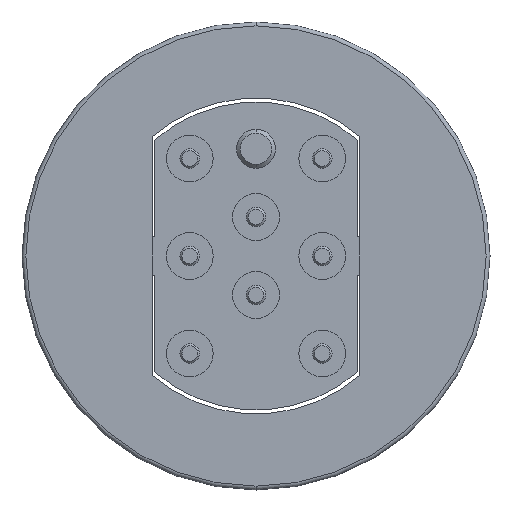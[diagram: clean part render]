
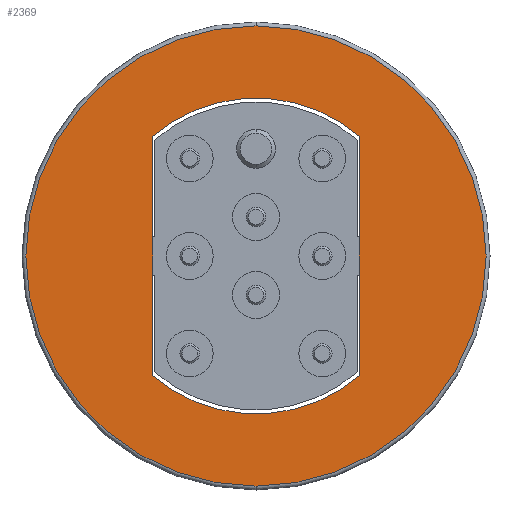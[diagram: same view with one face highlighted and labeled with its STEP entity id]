
A CAD part, front view. The second image highlights one B-rep face of the part: STEP entity #2369.
In plain terms, the highlighted planar face has unit normal (0, -1, 0) as drawn and (0, 1, 0) by its records, which use the part's own axes.
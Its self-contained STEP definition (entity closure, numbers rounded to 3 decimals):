
#2106=DIRECTION('',(1.,0.,0.));
#2107=VECTOR('',#2106,6.125);
#2108=CARTESIAN_POINT('',(-3.063,3.6,-2.65));
#2109=LINE('',#2108,#2107);
#2110=CARTESIAN_POINT('',(0.,3.6,0.));
#2111=DIRECTION('',(0.,-1.,0.));
#2112=DIRECTION('',(-0.756,0.,0.654));
#2113=AXIS2_PLACEMENT_3D('',#2110,#2111,#2112);
#2115=DIRECTION('',(-1.,0.,0.));
#2116=VECTOR('',#2115,6.125);
#2117=CARTESIAN_POINT('',(3.063,3.6,2.65));
#2118=LINE('',#2117,#2116);
#2119=CARTESIAN_POINT('',(0.,3.6,0.));
#2120=DIRECTION('',(0.,-1.,0.));
#2121=DIRECTION('',(0.756,0.,-0.654));
#2122=AXIS2_PLACEMENT_3D('',#2119,#2120,#2121);
#2124=CARTESIAN_POINT('',(0.,3.6,0.));
#2125=DIRECTION('',(0.,1.,0.));
#2126=DIRECTION('',(-1.,0.,0.));
#2127=AXIS2_PLACEMENT_3D('',#2124,#2125,#2126);
#2129=CARTESIAN_POINT('',(0.,3.6,0.));
#2130=DIRECTION('',(0.,1.,0.));
#2131=DIRECTION('',(1.,0.,0.));
#2132=AXIS2_PLACEMENT_3D('',#2129,#2130,#2131);
#2238=CARTESIAN_POINT('',(-3.063,3.6,-2.65));
#2239=CARTESIAN_POINT('',(3.063,3.6,-2.65));
#2240=VERTEX_POINT('',#2238);
#2241=VERTEX_POINT('',#2239);
#2242=CARTESIAN_POINT('',(3.063,3.6,2.65));
#2243=VERTEX_POINT('',#2242);
#2244=CARTESIAN_POINT('',(-3.063,3.6,2.65));
#2245=VERTEX_POINT('',#2244);
#2266=CARTESIAN_POINT('',(-5.9,3.6,0.));
#2267=CARTESIAN_POINT('',(5.9,3.6,0.));
#2268=VERTEX_POINT('',#2266);
#2269=VERTEX_POINT('',#2267);
#2352=CARTESIAN_POINT('',(0.,3.6,0.));
#2353=DIRECTION('',(0.,1.,0.));
#2354=DIRECTION('',(1.,0.,0.));
#2355=AXIS2_PLACEMENT_3D('',#2352,#2353,#2354);
#2356=PLANE('',#2355);
#2358=ORIENTED_EDGE('',*,*,#2357,.F.);
#2360=ORIENTED_EDGE('',*,*,#2359,.F.);
#2361=EDGE_LOOP('',(#2358,#2360));
#2362=FACE_OUTER_BOUND('',#2361,.F.);
#2363=ORIENTED_EDGE('',*,*,#2304,.F.);
#2364=ORIENTED_EDGE('',*,*,#2319,.F.);
#2365=ORIENTED_EDGE('',*,*,#2333,.F.);
#2366=ORIENTED_EDGE('',*,*,#2346,.F.);
#2367=EDGE_LOOP('',(#2363,#2364,#2365,#2366));
#2368=FACE_BOUND('',#2367,.F.);
#2369=ADVANCED_FACE('',(#2362,#2368),#2356,.T.);
#2114=CIRCLE('',#2113,4.05);
#2123=CIRCLE('',#2122,4.05);
#2128=CIRCLE('',#2127,5.9);
#2133=CIRCLE('',#2132,5.9);
#2304=EDGE_CURVE('',#2240,#2241,#2109,.T.);
#2319=EDGE_CURVE('',#2245,#2240,#2114,.T.);
#2333=EDGE_CURVE('',#2243,#2245,#2118,.T.);
#2346=EDGE_CURVE('',#2241,#2243,#2123,.T.);
#2357=EDGE_CURVE('',#2268,#2269,#2128,.T.);
#2359=EDGE_CURVE('',#2269,#2268,#2133,.T.);
